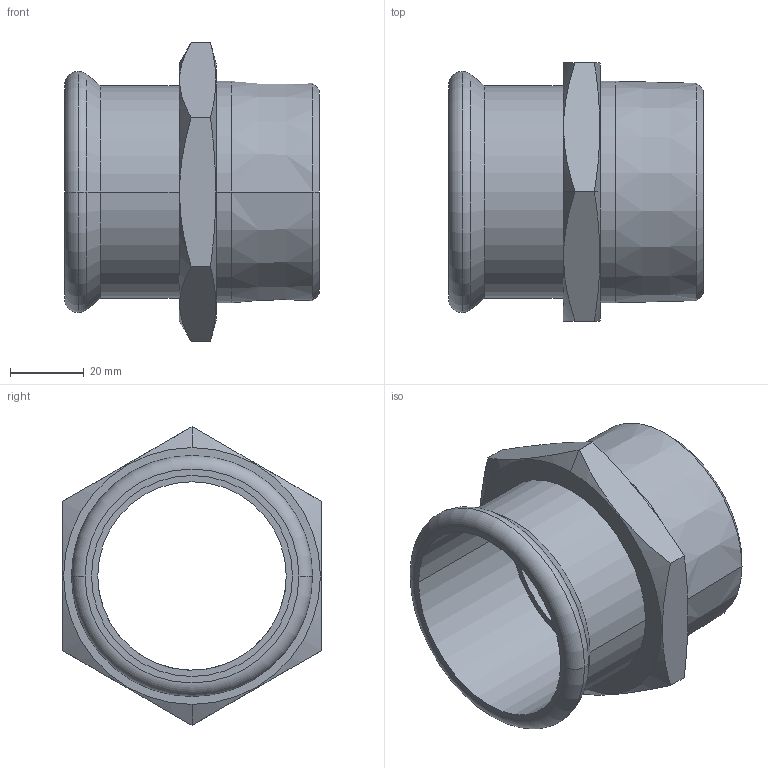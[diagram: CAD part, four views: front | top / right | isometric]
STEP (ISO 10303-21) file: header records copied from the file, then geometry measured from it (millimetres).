
FILE_DESCRIPTION(('CoCreate Modeling STEP Export'),'2;1');
FILE_NAME('C1405 54xR2.stp','2014-11-07T14:23:33',(''),(''),'CoCreate Modeling STEP processor for AP214 (Solid Model)','CoCreate Modeling 17.00A 17-Jun-2010 (C) Parametric Technology GmbH','');
FILE_SCHEMA(('AUTOMOTIVE_DESIGN { 1 0 10303 214 1 1 1 1 }'));
Length unit declared in the file: millimetre
Products named in the file (2): C1405_54xR2
Assembly tree (1 placements, depth 2):
  C1405_54xR2
    C1405_54xR2
Bounding box: 69 x 70 x 80.83 mm (x, y, z)
Volume: 51007 mm3; surface area: 29397.8 mm2
Topology: 1 solids, 1 shells, 37 faces, 79 edges, 49 vertices
Faces by surface type: plane 13, cone 10, cylinder 10, torus 4
Entity records: 1837 total; most frequent: CARTESIAN_POINT 1089, ORIENTED_EDGE 158, DIRECTION 122, EDGE_CURVE 79, VERTEX_POINT 49, AXIS2_PLACEMENT_3D 48, EDGE_LOOP 44, FACE_OUTER_BOUND 37
